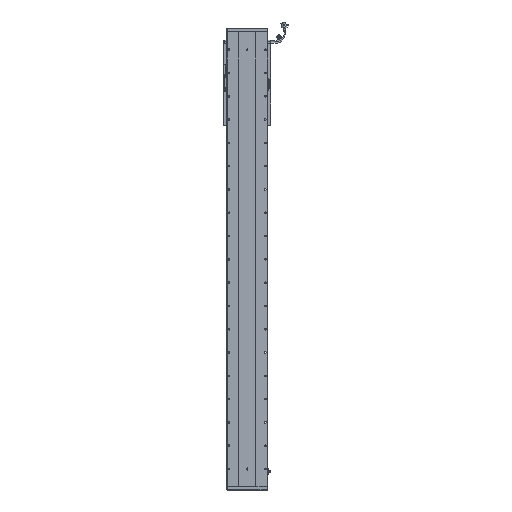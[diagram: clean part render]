
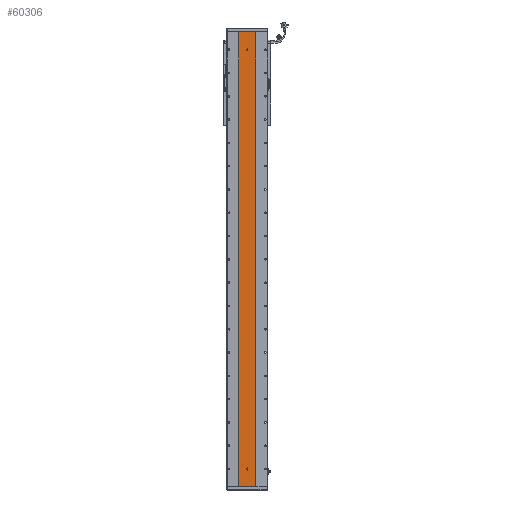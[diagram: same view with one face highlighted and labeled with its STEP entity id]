
A CAD part, front view. The second image highlights one B-rep face of the part: STEP entity #60306.
In plain terms, the highlighted planar face has unit normal (0, -1, 0).
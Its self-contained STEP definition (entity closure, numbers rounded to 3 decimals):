
#526 = VECTOR ( 'NONE', #1186, 1000. ) ;
#1186 = DIRECTION ( 'NONE',  ( 1., 0., 0. ) ) ;
#2539 = CARTESIAN_POINT ( 'NONE',  ( 3316.311, 1415.701, 1952. ) ) ;
#3488 = CARTESIAN_POINT ( 'NONE',  ( 3277.529, 1415.701, 77.5 ) ) ;
#7191 = DIRECTION ( 'NONE',  ( 0., 0., 1. ) ) ;
#7493 = LINE ( 'NONE', #101319, #526 ) ;
#7923 = VERTEX_POINT ( 'NONE', #80848 ) ;
#7988 = CARTESIAN_POINT ( 'NONE',  ( 3280.529, 1415.701, 1876. ) ) ;
#10970 = EDGE_LOOP ( 'NONE', ( #83343, #51998, #75768, #27473, #33409 ) ) ;
#13831 = EDGE_CURVE ( 'NONE', #64117, #24368, #41165, .T. ) ;
#14216 = CARTESIAN_POINT ( 'NONE',  ( 3280.529, 1415.701, 74.5 ) ) ;
#15772 = DIRECTION ( 'NONE',  ( 1., 0., 0. ) ) ;
#16900 = DIRECTION ( 'NONE',  ( 0., 0., -1. ) ) ;
#16907 = LINE ( 'NONE', #59717, #104291 ) ;
#22333 = VERTEX_POINT ( 'NONE', #46717 ) ;
#23908 = AXIS2_PLACEMENT_3D ( 'NONE', #7988, #35544, #16900 ) ;
#24368 = VERTEX_POINT ( 'NONE', #78426 ) ;
#25867 = CARTESIAN_POINT ( 'NONE',  ( 3280.529, 1415.701, 77.5 ) ) ;
#25990 = VECTOR ( 'NONE', #80447, 1000. ) ;
#26743 = FACE_BOUND ( 'NONE', #94318, .T. ) ;
#27396 = EDGE_CURVE ( 'NONE', #39170, #64117, #52656, .T. ) ;
#27473 = ORIENTED_EDGE ( 'NONE', *, *, #113746, .F. ) ;
#32791 = CARTESIAN_POINT ( 'NONE',  ( 3244.748, 1415.701, 1952. ) ) ;
#33409 = ORIENTED_EDGE ( 'NONE', *, *, #13831, .F. ) ;
#35100 = CARTESIAN_POINT ( 'NONE',  ( 3244.748, 1415.701, 1952. ) ) ;
#35544 = DIRECTION ( 'NONE',  ( 0., -1., 0. ) ) ;
#38731 = EDGE_CURVE ( 'NONE', #45396, #73681, #7493, .T. ) ;
#38992 = EDGE_CURVE ( 'NONE', #7923, #39954, #53319, .T. ) ;
#39170 = VERTEX_POINT ( 'NONE', #45074 ) ;
#39954 = VERTEX_POINT ( 'NONE', #74677 ) ;
#40248 = VECTOR ( 'NONE', #15772, 1000. ) ;
#40266 = DIRECTION ( 'NONE',  ( 0., 0., -1. ) ) ;
#40498 = CIRCLE ( 'NONE', #23908, 3. ) ;
#41165 = CIRCLE ( 'NONE', #110228, 3. ) ;
#41687 = EDGE_CURVE ( 'NONE', #94516, #22333, #90171, .T. ) ;
#43234 = ORIENTED_EDGE ( 'NONE', *, *, #61752, .F. ) ;
#45074 = CARTESIAN_POINT ( 'NONE',  ( 3277.529, 1415.701, 74.5 ) ) ;
#45396 = VERTEX_POINT ( 'NONE', #67406 ) ;
#46347 = ORIENTED_EDGE ( 'NONE', *, *, #38731, .F. ) ;
#46717 = CARTESIAN_POINT ( 'NONE',  ( 3316.311, 1415.701, 0. ) ) ;
#47293 = ORIENTED_EDGE ( 'NONE', *, *, #51421, .T. ) ;
#47301 = LINE ( 'NONE', #82716, #83310 ) ;
#48204 = LINE ( 'NONE', #35100, #25990 ) ;
#49344 = CARTESIAN_POINT ( 'NONE',  ( 3277.529, 1415.701, 77.5 ) ) ;
#50299 = EDGE_LOOP ( 'NONE', ( #88122, #43234, #46347, #47293 ) ) ;
#50828 = CARTESIAN_POINT ( 'NONE',  ( 3244.748, 1415.701, 0. ) ) ;
#51001 = DIRECTION ( 'NONE',  ( 0., 0., -1. ) ) ;
#51421 = EDGE_CURVE ( 'NONE', #45396, #94516, #48204, .T. ) ;
#51523 = PLANE ( 'NONE',  #99659 ) ;
#51998 = ORIENTED_EDGE ( 'NONE', *, *, #67392, .F. ) ;
#52656 = CIRCLE ( 'NONE', #67897, 3. ) ;
#53243 = FACE_OUTER_BOUND ( 'NONE', #50299, .T. ) ;
#53319 = CIRCLE ( 'NONE', #77330, 3. ) ;
#57549 = DIRECTION ( 'NONE',  ( 0., 0., -1. ) ) ;
#59717 = CARTESIAN_POINT ( 'NONE',  ( 3283.529, 1415.701, 77.5 ) ) ;
#60306 = ADVANCED_FACE ( 'NONE', ( #104437, #26743, #53243 ), #51523, .F. ) ;
#61113 = EDGE_CURVE ( 'NONE', #39954, #7923, #40498, .T. ) ;
#61752 = EDGE_CURVE ( 'NONE', #73681, #22333, #47301, .T. ) ;
#64117 = VERTEX_POINT ( 'NONE', #98797 ) ;
#64441 = CARTESIAN_POINT ( 'NONE',  ( 3283.529, 1415.701, 77.5 ) ) ;
#67392 = EDGE_CURVE ( 'NONE', #95184, #39170, #88109, .T. ) ;
#67406 = CARTESIAN_POINT ( 'NONE',  ( 3244.748, 1415.701, 1952. ) ) ;
#67897 = AXIS2_PLACEMENT_3D ( 'NONE', #89869, #115101, #80603 ) ;
#71199 = ORIENTED_EDGE ( 'NONE', *, *, #61113, .F. ) ;
#73681 = VERTEX_POINT ( 'NONE', #2539 ) ;
#74677 = CARTESIAN_POINT ( 'NONE',  ( 3280.529, 1415.701, 1879. ) ) ;
#75768 = ORIENTED_EDGE ( 'NONE', *, *, #95935, .F. ) ;
#75929 = DIRECTION ( 'NONE',  ( 0., -1., 0. ) ) ;
#77330 = AXIS2_PLACEMENT_3D ( 'NONE', #105133, #96244, #51001 ) ;
#78426 = CARTESIAN_POINT ( 'NONE',  ( 3283.529, 1415.701, 74.5 ) ) ;
#80447 = DIRECTION ( 'NONE',  ( 0., 0., -1. ) ) ;
#80603 = DIRECTION ( 'NONE',  ( 0., 0., -1. ) ) ;
#80848 = CARTESIAN_POINT ( 'NONE',  ( 3280.529, 1415.701, 1873. ) ) ;
#82716 = CARTESIAN_POINT ( 'NONE',  ( 3316.311, 1415.701, 1952. ) ) ;
#83310 = VECTOR ( 'NONE', #57549, 1000. ) ;
#83343 = ORIENTED_EDGE ( 'NONE', *, *, #27396, .F. ) ;
#88109 = LINE ( 'NONE', #49344, #114460 ) ;
#88122 = ORIENTED_EDGE ( 'NONE', *, *, #41687, .T. ) ;
#89869 = CARTESIAN_POINT ( 'NONE',  ( 3280.529, 1415.701, 74.5 ) ) ;
#90171 = LINE ( 'NONE', #50828, #40248 ) ;
#91408 = VERTEX_POINT ( 'NONE', #64441 ) ;
#93807 = DIRECTION ( 'NONE',  ( 0., 0., 1. ) ) ;
#94248 = DIRECTION ( 'NONE',  ( 0., 0., -1. ) ) ;
#94318 = EDGE_LOOP ( 'NONE', ( #104740, #71199 ) ) ;
#94516 = VERTEX_POINT ( 'NONE', #101394 ) ;
#95184 = VERTEX_POINT ( 'NONE', #3488 ) ;
#95935 = EDGE_CURVE ( 'NONE', #91408, #95184, #106727, .T. ) ;
#96244 = DIRECTION ( 'NONE',  ( 0., -1., 0. ) ) ;
#97222 = DIRECTION ( 'NONE',  ( 0., 0., -1. ) ) ;
#98797 = CARTESIAN_POINT ( 'NONE',  ( 3280.529, 1415.701, 71.5 ) ) ;
#99659 = AXIS2_PLACEMENT_3D ( 'NONE', #32791, #113431, #7191 ) ;
#101319 = CARTESIAN_POINT ( 'NONE',  ( 3244.748, 1415.701, 1952. ) ) ;
#101394 = CARTESIAN_POINT ( 'NONE',  ( 3244.748, 1415.701, 0. ) ) ;
#104291 = VECTOR ( 'NONE', #93807, 1000. ) ;
#104437 = FACE_BOUND ( 'NONE', #10970, .T. ) ;
#104740 = ORIENTED_EDGE ( 'NONE', *, *, #38992, .F. ) ;
#104991 = DIRECTION ( 'NONE',  ( 0., -1., 0. ) ) ;
#105133 = CARTESIAN_POINT ( 'NONE',  ( 3280.529, 1415.701, 1876. ) ) ;
#106727 = CIRCLE ( 'NONE', #109421, 3. ) ;
#109421 = AXIS2_PLACEMENT_3D ( 'NONE', #25867, #104991, #97222 ) ;
#110228 = AXIS2_PLACEMENT_3D ( 'NONE', #14216, #75929, #40266 ) ;
#113431 = DIRECTION ( 'NONE',  ( 0., 1., 0. ) ) ;
#113746 = EDGE_CURVE ( 'NONE', #24368, #91408, #16907, .T. ) ;
#114460 = VECTOR ( 'NONE', #94248, 1000. ) ;
#115101 = DIRECTION ( 'NONE',  ( 0., -1., 0. ) ) ;
